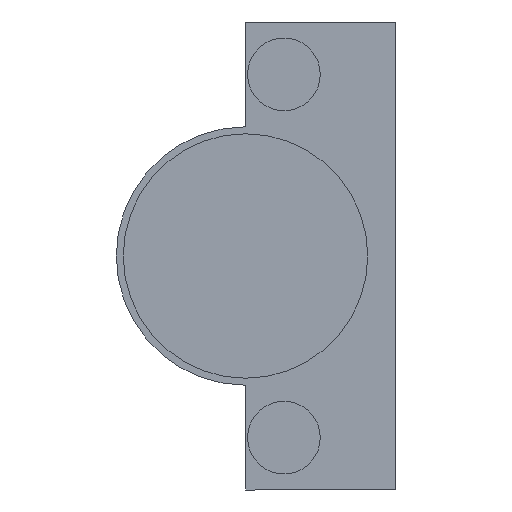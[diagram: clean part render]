
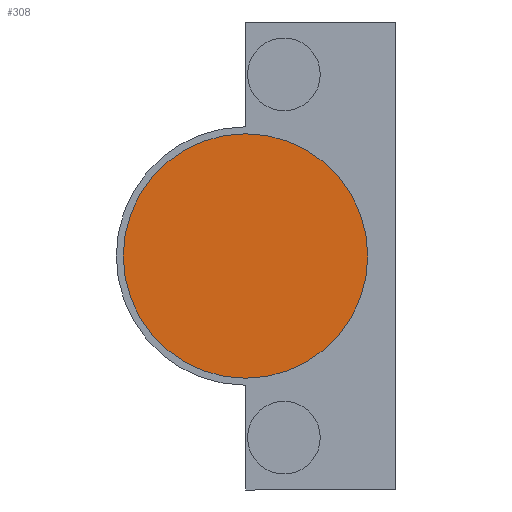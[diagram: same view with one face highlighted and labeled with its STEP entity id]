
A CAD part, front view. The second image highlights one B-rep face of the part: STEP entity #308.
In plain terms, the highlighted planar face has unit normal (0, -1, 0).
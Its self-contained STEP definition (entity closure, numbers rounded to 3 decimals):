
#64 = CARTESIAN_POINT ( 'NONE',  ( 29.5, -12.6, 0. ) ) ;
#112 = CARTESIAN_POINT ( 'NONE',  ( -5.5, -12.6, 0. ) ) ;
#199 = VERTEX_POINT ( 'NONE', #112 ) ;
#226 = VERTEX_POINT ( 'NONE', #64 ) ;
#308 = ADVANCED_FACE ( 'NONE', ( #554 ), #1279, .T. ) ;
#355 = CIRCLE ( 'NONE', #1045, 17.5 ) ;
#554 = FACE_OUTER_BOUND ( 'NONE', #866, .T. ) ;
#734 = ORIENTED_EDGE ( 'NONE', *, *, #1187, .T. ) ;
#735 = ORIENTED_EDGE ( 'NONE', *, *, #1238, .T. ) ;
#866 = EDGE_LOOP ( 'NONE', ( #734, #735 ) ) ;
#965 = CIRCLE ( 'NONE', #1029, 17.5 ) ;
#1029 = AXIS2_PLACEMENT_3D ( 'NONE', #1704, #1690, #1689 ) ;
#1045 = AXIS2_PLACEMENT_3D ( 'NONE', #1601, #1607, #1610 ) ;
#1076 = AXIS2_PLACEMENT_3D ( 'NONE', #1280, #1277, #1276 ) ;
#1187 = EDGE_CURVE ( 'NONE', #199, #226, #355, .T. ) ;
#1238 = EDGE_CURVE ( 'NONE', #226, #199, #965, .T. ) ;
#1276 = DIRECTION ( 'NONE',  ( 1., 0., 0. ) ) ;
#1277 = DIRECTION ( 'NONE',  ( 0., -1., 0. ) ) ;
#1279 = PLANE ( 'NONE',  #1076 ) ;
#1280 = CARTESIAN_POINT ( 'NONE',  ( 12., -12.6, 0. ) ) ;
#1601 = CARTESIAN_POINT ( 'NONE',  ( 12., -12.6, 0. ) ) ;
#1607 = DIRECTION ( 'NONE',  ( 0., -1., 0. ) ) ;
#1610 = DIRECTION ( 'NONE',  ( 1., 0., 0. ) ) ;
#1689 = DIRECTION ( 'NONE',  ( 1., 0., 0. ) ) ;
#1690 = DIRECTION ( 'NONE',  ( 0., -1., 0. ) ) ;
#1704 = CARTESIAN_POINT ( 'NONE',  ( 12., -12.6, 0. ) ) ;
